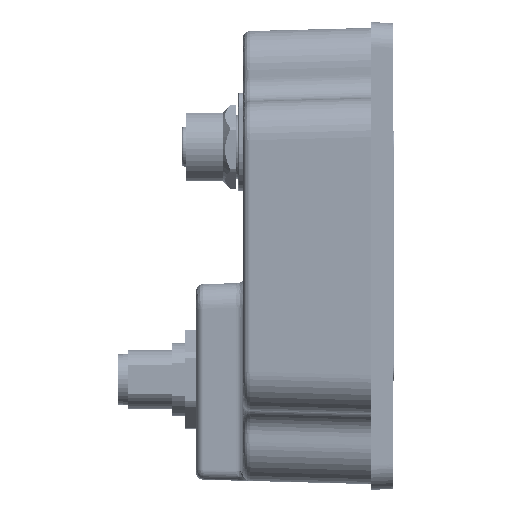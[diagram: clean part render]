
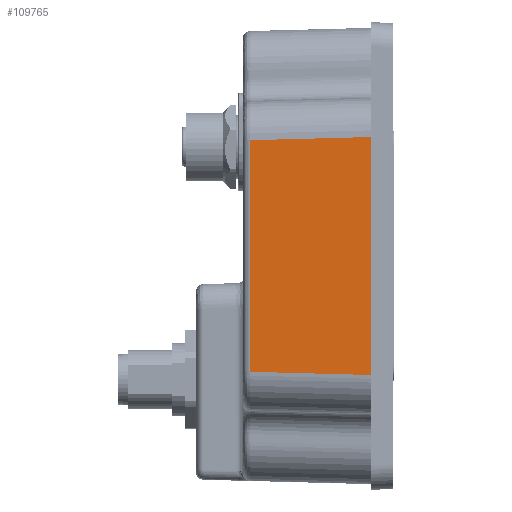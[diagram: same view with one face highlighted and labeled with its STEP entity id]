
A CAD part, left-side view. The second image highlights one B-rep face of the part: STEP entity #109765.
In plain terms, the highlighted planar face has unit normal (-1, 0.026, 0).
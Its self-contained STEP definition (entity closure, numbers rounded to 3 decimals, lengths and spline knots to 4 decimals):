
#8333=PLANE('',#116582);
#13349=FACE_OUTER_BOUND('',#20057,.T.);
#20057=EDGE_LOOP('',(#92822,#92823,#92824,#92825));
#25608=LINE('',#163593,#34733);
#29348=LINE('',#205996,#38473);
#29373=LINE('',#206373,#38498);
#29374=LINE('',#206375,#38499);
#34733=VECTOR('',#125835,1.9065);
#38473=VECTOR('',#137477,1.8558);
#38498=VECTOR('',#137606,0.9681);
#38499=VECTOR('',#137609,0.9681);
#46483=VERTEX_POINT('',#163590);
#46484=VERTEX_POINT('',#163592);
#51224=VERTEX_POINT('',#205990);
#51225=VERTEX_POINT('',#205994);
#58481=EDGE_CURVE('',#46483,#46484,#25608,.T.);
#65348=EDGE_CURVE('',#51224,#51225,#29348,.T.);
#65400=EDGE_CURVE('',#51225,#46483,#29373,.T.);
#65401=EDGE_CURVE('',#46484,#51224,#29374,.T.);
#92822=ORIENTED_EDGE('',*,*,#65348,.F.);
#92823=ORIENTED_EDGE('',*,*,#65401,.F.);
#92824=ORIENTED_EDGE('',*,*,#58481,.F.);
#92825=ORIENTED_EDGE('',*,*,#65400,.F.);
#109765=ADVANCED_FACE('',(#13349),#8333,.T.);
#116582=AXIS2_PLACEMENT_3D('',#206374,#137607,#137608);
#125835=DIRECTION('',(0.,0.,-1.));
#137477=DIRECTION('',(0.,0.,1.));
#137606=DIRECTION('',(-0.026,-0.999,0.026));
#137607=DIRECTION('center_axis',(-1.,0.026,
0.));
#137608=DIRECTION('ref_axis',(0.,0.,1.));
#137609=DIRECTION('',(0.026,0.999,0.026));
#163590=CARTESIAN_POINT('',(-3.5781,-0.5591,0.9532));
#163592=CARTESIAN_POINT('',(-3.5781,-0.5591,-0.9532));
#163593=CARTESIAN_POINT('',(-3.5781,-0.5591,1.2656));
#205990=CARTESIAN_POINT('',(-3.5528,0.4083,-0.9279));
#205994=CARTESIAN_POINT('',(-3.5528,0.4083,0.9279));
#205996=CARTESIAN_POINT('',(-3.5528,0.4083,0.6228));
#206373=CARTESIAN_POINT('',(-3.5781,-0.5593,0.9532));
#206374=CARTESIAN_POINT('Origin',(-3.5781,-0.5591,
1.2656));
#206375=CARTESIAN_POINT('',(-3.5775,-0.5342,-0.9526));
